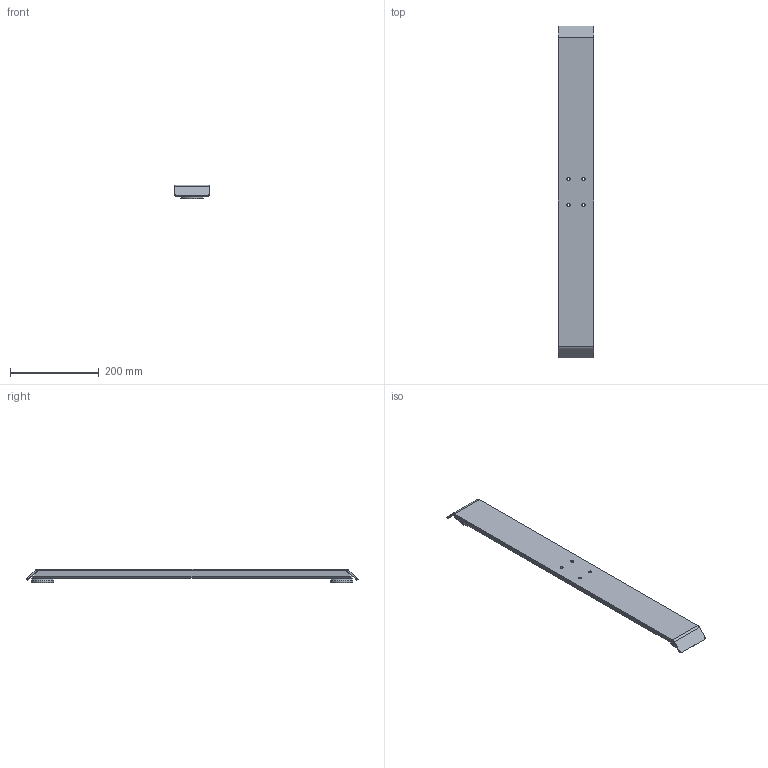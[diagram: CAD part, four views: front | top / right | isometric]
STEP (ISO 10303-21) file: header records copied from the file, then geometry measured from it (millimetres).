
FILE_DESCRIPTION(/* description */ ('Unknown'),/* implementation_level */ '2;1');
FILE_NAME(/* name */ '127.00823_00',/* time_stamp */ '2026-04-14T07:21:34+02:00',/* author */ ('Unknown'),/* organization */ ('Unknown'),/* preprocessor_version */ 'ST-DEVELOPER v20',/* originating_system */ 'Solid Edge',/* authorisation */ 'Unknown');
FILE_SCHEMA (('AUTOMOTIVE_DESIGN {1 0 10303 214 3 1 1}'));
Length unit declared in the file: millimetre
Products named in the file (4): 127.00823; EA2 Tischfuss unten; EA2 Tischfuss oben; Regulierfuss
Assembly tree (4 placements, depth 2):
  127.00823
    EA2 Tischfuss unten
    EA2 Tischfuss oben
    Regulierfuss  x2
Bounding box: 80 x 749.98 x 31.5 mm (x, y, z)
Volume: 536492.2 mm3; surface area: 274643.4 mm2
Topology: 4 solids, 4 shells, 266 faces, 584 edges, 336 vertices
Faces by surface type: cylinder 108, cone 88, plane 46, torus 24
Entity records: 4880 total; most frequent: DIRECTION 920, CARTESIAN_POINT 792, ORIENTED_EDGE 776, EDGE_CURVE 388, AXIS2_PLACEMENT_3D 360, VERTEX_POINT 232, LINE 200, VECTOR 200
